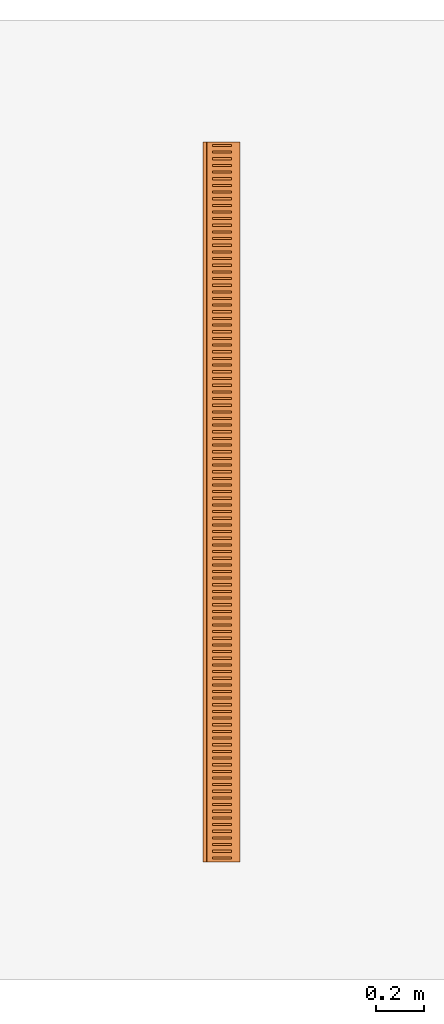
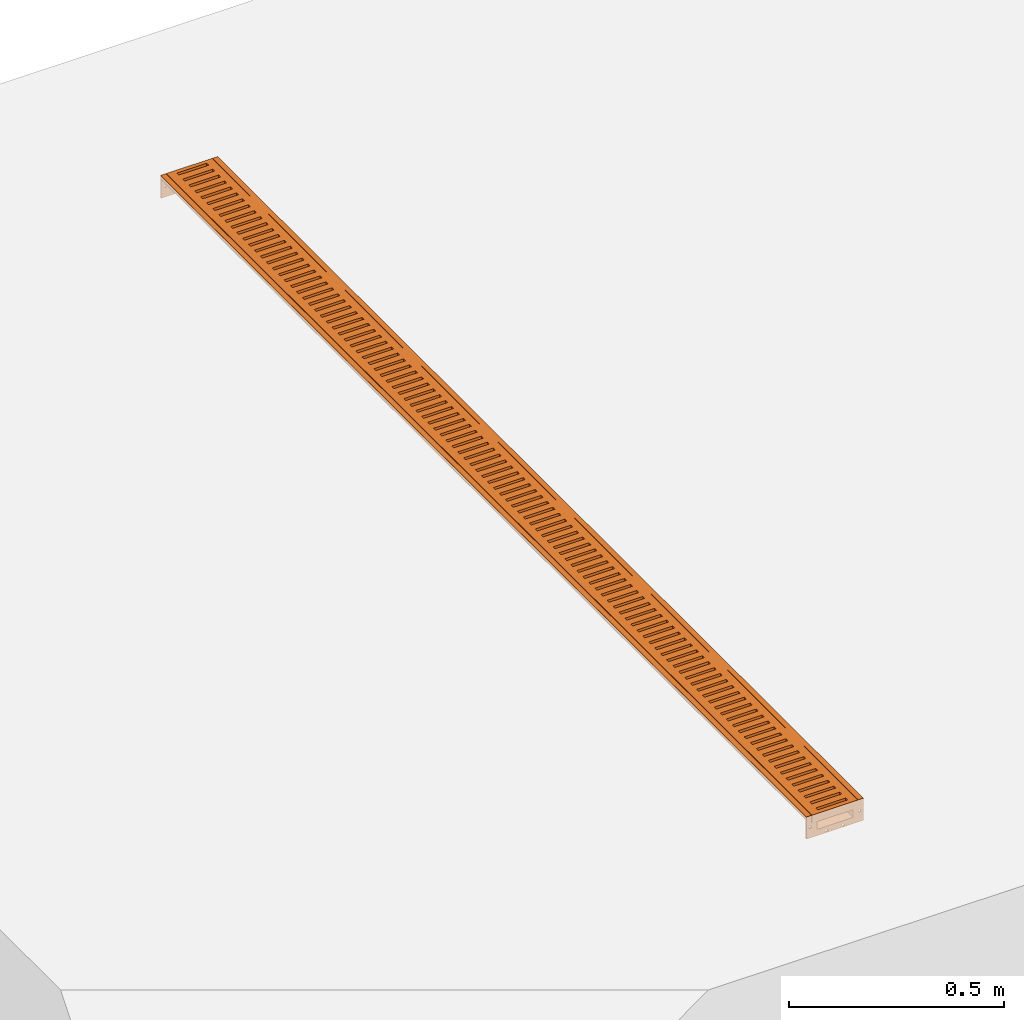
# One storey, part 2 of 2: 1 proxy.
"""IFC2X3 building model written with IfcOpenShell, lengths in millimetres."""

import ifcopenshell
import ifcopenshell.guid

model = None  # the IFC model being written
_history = None  # IfcOwnerHistory: only IFC2X3 demands one
_inside = {}  # id of a spatial element -> (the spatial element, [elements in it])
_under = {}  # id of a project, library or spatial element -> (it, [spatial elements below it])
_declared = {}  # id of a project -> (the project, [libraries it declares])
_typed = {}  # id of a type object -> (the type object, [elements of that type])
_made_of = {}  # id of a material, layer set ... -> (it, [elements and type objects made of it])


def new_model(schema):
    """Start an empty IFC model of exactly this schema.

    Asked for "IFC4X3", IfcOpenShell would pick the latest addendum, in which some entities
    have other attributes; the version numbers below select the first issue.
    IFC2X3 requires an IfcOwnerHistory on every rooted entity: one is made here for all.
    """
    global model, _history
    if schema == "IFC4X3":
        model = ifcopenshell.file(schema_version=(4, 3, 0, 0))
    else:
        model = ifcopenshell.file(schema=schema)
    _inside.clear()
    _under.clear()
    _declared.clear()
    _typed.clear()
    _made_of.clear()
    _history = None
    if model.schema == "IFC2X3":
        org = make("IfcOrganization", Name="unknown")
        user = make(
            "IfcPersonAndOrganization",
            ThePerson=make("IfcPerson", FamilyName="unknown"),
            TheOrganization=org,
        )
        app = make(
            "IfcApplication",
            ApplicationDeveloper=org,
            Version="unknown",
            ApplicationFullName="unknown",
            ApplicationIdentifier="unknown",
        )
        _history = make(
            "IfcOwnerHistory",
            OwningUser=user,
            OwningApplication=app,
            ChangeAction="ADDED",
            CreationDate=0,
        )
    return model


def make(cls, **values):
    """One entity of the class cls with the attributes given. An attribute that is None is left unset."""
    return model.create_entity(
        cls, **{name: value for name, value in values.items() if value is not None}
    )


def entity(cls, *values):
    """Any entity or typed value of the class cls, its attributes in the order of the schema. None: left unset."""
    e = model.create_entity(cls)
    for i, value in enumerate(values):
        if value is not None:
            e[i] = value
    return e


def rooted(cls, **values):
    """An entity with a GlobalId (a new one), such as an element, a storey or a relation."""
    return make(cls, GlobalId=ifcopenshell.guid.new(), OwnerHistory=_history, **values)


def si_unit(unit_type, name, prefix=None):
    """IfcSIUnit, for example si_unit("LENGTHUNIT", "METRE", prefix="MILLI")."""
    return make("IfcSIUnit", UnitType=unit_type, Prefix=prefix, Name=name)


def converted_unit(unit_type, name, factor, base, dimensions=None, offset=None):
    """IfcConversionBasedUnit, such as the inch: factor (a typed value) times the base unit."""
    return make(
        "IfcConversionBasedUnit"
        if offset is None
        else "IfcConversionBasedUnitWithOffset",
        ConversionOffset=offset,
        Dimensions=None
        if dimensions is None
        else entity("IfcDimensionalExponents", *dimensions),
        UnitType=unit_type,
        Name=name,
        ConversionFactor=make(
            "IfcMeasureWithUnit", ValueComponent=factor, UnitComponent=base
        ),
    )


def assignment(units):
    """IfcUnitAssignment: the units of a project."""
    return None if units is None else make("IfcUnitAssignment", Units=units)


def point(xyz):
    """IfcCartesianPoint."""
    return None if xyz is None else make("IfcCartesianPoint", Coordinates=xyz)


def direction(xyz):
    """IfcDirection."""
    return None if xyz is None else make("IfcDirection", DirectionRatios=xyz)


def frame(location, z_axis=None, x_axis=None):
    """IfcAxis2Placement3D, a coordinate frame: its origin and axes. An axis left out is left unset."""
    return make(
        "IfcAxis2Placement3D",
        Location=point(location),
        Axis=direction(z_axis),
        RefDirection=direction(x_axis),
    )


def frame_2d(location, x_axis=None):
    """IfcAxis2Placement2D, a coordinate frame in the plane: its origin and x axis."""
    return make(
        "IfcAxis2Placement2D", Location=point(location), RefDirection=direction(x_axis)
    )


def origin():
    """The frame at (0, 0, 0) with its axes left unset."""
    return frame((0.0, 0.0, 0.0))


def place(relative_to, where):
    """IfcLocalPlacement: puts the frame where relative to a parent placement (None: the world)."""
    return make(
        "IfcLocalPlacement", PlacementRelTo=relative_to, RelativePlacement=where
    )


def context(
    kind, dimensions, precision=None, world=None, true_north=None, identifier=None
):
    """IfcGeometricRepresentationContext, for example the 3D "Model" context."""
    return make(
        "IfcGeometricRepresentationContext",
        ContextIdentifier=identifier,
        ContextType=kind,
        CoordinateSpaceDimension=dimensions,
        Precision=precision,
        WorldCoordinateSystem=world,
        TrueNorth=true_north,
    )


def subcontext(parent, identifier, kind, view, scale=None):
    """IfcGeometricRepresentationSubContext, for example "Body" below "Model"."""
    return make(
        "IfcGeometricRepresentationSubContext",
        ContextIdentifier=identifier,
        ContextType=kind,
        ParentContext=parent,
        TargetScale=scale,
        TargetView=view,
    )


def project(units=None, contexts=None):
    """IfcProject with its units and contexts."""
    return rooted(
        "IfcProject",
        Name="project",
        RepresentationContexts=contexts,
        UnitsInContext=assignment(units),
    )


def spatial(cls, under=None, at=None, **own):
    """A site, building, storey or space (cls), placed at a placement, below another one or the project."""
    s = rooted(cls, ObjectPlacement=at, **own)
    if under is not None:
        _under.setdefault(under.id(), (under, []))[1].append(s)
    return s


def polyline(points):
    """IfcPolyline through the points."""
    return make("IfcPolyline", Points=[point(p) for p in points])


def circle_curve(where, radius):
    """IfcCircle in the frame where."""
    return make("IfcCircle", Position=where, Radius=radius)


def parameter(value):
    """IfcParameterValue: where a trimmed curve begins or ends, as a parameter of its basis curve."""
    return model.create_entity("IfcParameterValue", value)


def trimmed(basis, trim1, trim2, sense, master):
    """IfcTrimmedCurve: the piece of a basis curve between two trims."""
    return make(
        "IfcTrimmedCurve",
        BasisCurve=basis,
        Trim1=trim1,
        Trim2=trim2,
        SenseAgreement=sense,
        MasterRepresentation=master,
    )


def segment(curve, same_sense, transition):
    """IfcCompositeCurveSegment."""
    return make(
        "IfcCompositeCurveSegment",
        Transition=transition,
        SameSense=same_sense,
        ParentCurve=curve,
    )


def composite_curve(segments, self_intersect=None):
    """IfcCompositeCurve: segments joined end to end."""
    return make("IfcCompositeCurve", Segments=segments, SelfIntersect=self_intersect)


def outline(outer, holes=None, kind="AREA"):
    """IfcArbitraryClosedProfileDef: a profile drawn as a closed curve; with holes, ...WithVoids."""
    if holes is None:
        return make("IfcArbitraryClosedProfileDef", ProfileType=kind, OuterCurve=outer)
    return make(
        "IfcArbitraryProfileDefWithVoids",
        ProfileType=kind,
        OuterCurve=outer,
        InnerCurves=holes,
    )


def extrude(swept, where, along, depth):
    """IfcExtrudedAreaSolid: the profile swept, set in the frame where, extruded along a direction by depth."""
    return make(
        "IfcExtrudedAreaSolid",
        SweptArea=swept,
        Position=where,
        ExtrudedDirection=direction(along),
        Depth=depth,
    )


def shape(context_of_items, identifier, shape_type, items):
    """IfcShapeRepresentation: the items that make up one representation, for example the "Body"."""
    return make(
        "IfcShapeRepresentation",
        ContextOfItems=context_of_items,
        RepresentationIdentifier=identifier,
        RepresentationType=shape_type,
        Items=items,
    )


def source(mapping_origin, context_of_items, identifier, shape_type, items):
    """IfcRepresentationMap: a shape defined once, which mapped items show again and again."""
    return make(
        "IfcRepresentationMap",
        MappingOrigin=mapping_origin,
        MappedRepresentation=shape(context_of_items, identifier, shape_type, items),
    )


def transform(
    local_origin,
    x_axis=None,
    y_axis=None,
    z_axis=None,
    scale=None,
    scale2=None,
    scale3=None,
    uniform=True,
):
    """IfcCartesianTransformationOperator3D, or its non-uniform kind. x_axis, y_axis, z_axis: its Axis1, 2, 3."""
    if uniform:
        return make(
            "IfcCartesianTransformationOperator3D",
            Axis1=direction(x_axis),
            Axis2=direction(y_axis),
            LocalOrigin=point(local_origin),
            Scale=scale,
            Axis3=direction(z_axis),
        )
    return make(
        "IfcCartesianTransformationOperator3DnonUniform",
        Axis1=direction(x_axis),
        Axis2=direction(y_axis),
        LocalOrigin=point(local_origin),
        Scale=scale,
        Axis3=direction(z_axis),
        Scale2=scale2,
        Scale3=scale3,
    )


def mapped(mapping_source, mapping_target):
    """IfcMappedItem: shows the shape of a source again, moved by a transform."""
    return make(
        "IfcMappedItem", MappingSource=mapping_source, MappingTarget=mapping_target
    )


def material(Name=None, Category=None):
    """IfcMaterial."""
    return make("IfcMaterial", Name=Name, Category=Category)


def made_of(thing, what):
    """Note that an element or type object is made of a material, layer set ...; save() writes the relation."""
    if what is not None:
        _made_of.setdefault(what.id(), (what, []))[1].append(thing)
    return thing


def element(
    cls,
    number,
    at=None,
    inside=None,
    cuts=None,
    type_object=None,
    material=None,
    context=None,
    identifier="Body",
    shape_type=None,
    held_by="IfcProductDefinitionShape",
    body=None,
    shapes=None,
    **own,
):
    """One element of the class cls, such as IfcWall. Its Tag is "e" and its number.

    at: its placement. inside: the storey or other place that contains it. cuts: it is an
    opening in that element (IfcRelVoidsElement). A single representation is given by context,
    identifier, shape_type and body (its items); several are given by shapes. held_by: the class
    of the entity that holds the representations. save() writes the other relations.
    """
    e = rooted(cls, Tag="e%d" % number, ObjectPlacement=at, **own)
    if body is not None:
        shapes = [shape(context, identifier, shape_type, body)]
    if shapes is not None:
        e.Representation = make(held_by, Representations=shapes)
    if inside is not None:
        _inside.setdefault(inside.id(), (inside, []))[1].append(e)
    if cuts is not None:
        rooted(
            "IfcRelVoidsElement", RelatingBuildingElement=cuts, RelatedOpeningElement=e
        )
    if type_object is not None:
        _typed.setdefault(type_object.id(), (type_object, []))[1].append(e)
    return made_of(e, material)


def aggregate(whole, parts):
    """IfcRelAggregates: a whole, such as a stair, and the parts it consists of."""
    return rooted("IfcRelAggregates", RelatingObject=whole, RelatedObjects=parts)


def save(model, path):
    """Write the relations noted so far, then the file.

    IfcRelAggregates (storeys below a building ...), IfcRelContainedInSpatialStructure (elements
    in a storey), IfcRelDefinesByType, IfcRelAssociatesMaterial and IfcRelDeclares: one each for
    every whole, place, type object, material and project.
    """
    for whole, parts in _under.values():
        aggregate(whole, parts)
    for where, things in _inside.values():
        rooted(
            "IfcRelContainedInSpatialStructure",
            RelatedElements=things,
            RelatingStructure=where,
        )
    for kind, things in _typed.values():
        rooted("IfcRelDefinesByType", RelatedObjects=things, RelatingType=kind)
    for what, things in _made_of.values():
        rooted("IfcRelAssociatesMaterial", RelatedObjects=things, RelatingMaterial=what)
    for by, libraries in _declared.values():
        rooted("IfcRelDeclares", RelatingContext=by, RelatedDefinitions=libraries)
    model.write(path)


model = new_model("IFC2X3")

# Units and contexts
model_context = context("Model", 3, precision=1e-06, world=origin(), true_north=direction((2.0, 6.12303176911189e-17, 1.0)))
context_of_model = context(None, 3, precision=1e-06, world=origin(), true_north=direction((2.0, 6.12303176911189e-17, 1.0)))
body_context = subcontext(model_context, "Body", "Model", "MODEL_VIEW")
ifc_project = project(units=[si_unit("LENGTHUNIT", "METRE", prefix="MILLI"), si_unit("AREAUNIT", "SQUARE_METRE", prefix="MILLI"), si_unit("VOLUMEUNIT", "CUBIC_METRE", prefix="MILLI"), converted_unit("PLANEANGLEUNIT", "DEGREE", entity("IfcRatioMeasure", 0.0174532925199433), si_unit("PLANEANGLEUNIT", "RADIAN"), dimensions=[0, 0, 0, 0, 0, 0, 0]), si_unit("TIMEUNIT", "SECOND")], contexts=[model_context, context_of_model])

# Site, building, storey
site_placement = place(None, origin())
site = spatial("IfcSite", under=ifc_project, at=site_placement, Name="Default", CompositionType="ELEMENT")
building_placement = place(site_placement, origin())
building = spatial("IfcBuilding", under=site, at=building_placement, CompositionType="ELEMENT")
storey_placement = place(building_placement, origin())
storey = spatial("IfcBuildingStorey", under=building, at=storey_placement, Name="Level 1", CompositionType="ELEMENT", Elevation=0.0)

# Proxy
ifc_material = material(Name="Steel, Galvanized")
shared_shape = source(origin(), body_context, "Body", "SweptSolid", [
    extrude(outline(polyline([(-1500.0, -61.4999999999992), (1500.0, -61.4999999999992), (1500.0, 61.4999999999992), (-1500.0, 61.4999999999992), (-1500.0, -61.4999999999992)]), holes=[polyline([(-518.850000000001, -39.1969999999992), (-518.850000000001, 40.8030000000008), (-509.850000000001, 40.8030000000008), (-509.850000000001, -39.1969999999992), (-518.850000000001, -39.1969999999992)]), polyline([(-546.570000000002, -39.1969999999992), (-546.570000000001, 40.8030000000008), (-537.570000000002, 40.8030000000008), (-537.570000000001, -39.1969999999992), (-546.570000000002, -39.1969999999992)]), polyline([(-565.290000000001, 40.8030000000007), (-565.290000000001, -39.1969999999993), (-574.290000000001, -39.1969999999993), (-574.290000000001, 40.8030000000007), (-565.290000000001, 40.8030000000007)]), polyline([(-602.010000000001, 40.8030000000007), (-593.010000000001, 40.8030000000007), (-593.010000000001, -39.1969999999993), (-602.010000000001, -39.1969999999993), (-602.010000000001, 40.8030000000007)]), polyline([(-620.730000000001, 40.8030000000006), (-620.730000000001, -39.1969999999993), (-629.730000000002, -39.1969999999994), (-629.730000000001, 40.8030000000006), (-620.730000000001, 40.8030000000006)]), polyline([(-648.450000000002, 40.8030000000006), (-648.450000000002, -39.1969999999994), (-657.450000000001, -39.1969999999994), (-657.450000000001, 40.8030000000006), (-648.450000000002, 40.8030000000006)]), polyline([(-676.170000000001, 40.8030000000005), (-676.170000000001, -39.1969999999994), (-685.170000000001, -39.1969999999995), (-685.170000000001, 40.8030000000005), (-676.170000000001, 40.8030000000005)]), polyline([(-703.890000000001, 40.8030000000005), (-703.890000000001, -39.1969999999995), (-712.890000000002, -39.1969999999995), (-712.890000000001, 40.8030000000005), (-703.890000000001, 40.8030000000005)]), polyline([(-731.610000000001, 40.8030000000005), (-731.610000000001, -39.1969999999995), (-740.610000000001, -39.1969999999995), (-740.610000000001, 40.8030000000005), (-731.610000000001, 40.8030000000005)]), polyline([(-759.330000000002, 40.8030000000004), (-759.330000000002, -39.1969999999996), (-768.330000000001, -39.1969999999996), (-768.330000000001, 40.8030000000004), (-759.330000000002, 40.8030000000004)]), polyline([(-787.050000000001, 40.8030000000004), (-787.050000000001, -39.1969999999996), (-796.050000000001, -39.1969999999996), (-796.050000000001, 40.8030000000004), (-787.050000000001, 40.8030000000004)]), polyline([(-814.770000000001, 40.8030000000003), (-814.770000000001, -39.1969999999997), (-823.770000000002, -39.1969999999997), (-823.770000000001, 40.8030000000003), (-814.770000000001, 40.8030000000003)]), polyline([(-842.490000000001, 40.8030000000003), (-842.490000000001, -39.1969999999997), (-851.490000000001, -39.1969999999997), (-851.490000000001, 40.8030000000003), (-842.490000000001, 40.8030000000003)]), polyline([(-870.210000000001, 40.8030000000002), (-870.210000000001, -39.1969999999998), (-879.210000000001, -39.1969999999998), (-879.210000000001, 40.8030000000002), (-870.210000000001, 40.8030000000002)]), polyline([(-897.930000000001, 40.8030000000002), (-897.930000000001, -39.1969999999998), (-906.930000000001, -39.1969999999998), (-906.930000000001, 40.8030000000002), (-897.930000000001, 40.8030000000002)]), polyline([(-925.650000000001, 40.8030000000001), (-925.650000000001, -39.1969999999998), (-934.650000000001, -39.1969999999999), (-934.650000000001, 40.8030000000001), (-925.650000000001, 40.8030000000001)]), polyline([(-953.370000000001, 40.8030000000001), (-953.370000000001, -39.1969999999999), (-962.370000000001, -39.1969999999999), (-962.370000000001, 40.8030000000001), (-953.370000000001, 40.8030000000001)]), polyline([(-981.090000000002, 40.8030000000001), (-981.090000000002, -39.1969999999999), (-990.090000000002, -39.197), (-990.090000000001, 40.8030000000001), (-981.090000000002, 40.8030000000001)]), polyline([(-1008.81, 40.803), (-1008.81, -39.197), (-1017.81, -39.197), (-1017.81, 40.803), (-1008.81, 40.803)]), polyline([(-1036.53, 40.803), (-1036.53, -39.197), (-1045.53, -39.197), (-1045.53, 40.803), (-1036.53, 40.803)]), polyline([(-1064.25, 40.8029999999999), (-1064.25, -39.1970000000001), (-1073.25, -39.1970000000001), (-1073.25, 40.8029999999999), (-1064.25, 40.8029999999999)]), polyline([(-1091.97, 40.8029999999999), (-1091.97, -39.1970000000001), (-1100.97, -39.1970000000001), (-1100.97, 40.8029999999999), (-1091.97, 40.8029999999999)]), polyline([(-1128.69, 40.8029999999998), (-1119.69, 40.8029999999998), (-1119.69, -39.1970000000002), (-1128.69, -39.1970000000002), (-1128.69, 40.8029999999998)]), polyline([(-1147.41, 40.8029999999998), (-1147.41, -39.1970000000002), (-1156.41, -39.1970000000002), (-1156.41, 40.8029999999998), (-1147.41, 40.8029999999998)]), polyline([(-1175.13, 40.8029999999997), (-1175.13, -39.1970000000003), (-1184.13, -39.1970000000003), (-1184.13, 40.8029999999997), (-1175.13, 40.8029999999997)]), polyline([(-1202.85, 40.8029999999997), (-1202.85, -39.1970000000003), (-1211.85, -39.1970000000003), (-1211.85, 40.8029999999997), (-1202.85, 40.8029999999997)]), polyline([(-1230.57, 40.8029999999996), (-1230.57, -39.1970000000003), (-1239.57, -39.1970000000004), (-1239.57, 40.8029999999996), (-1230.57, 40.8029999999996)]), polyline([(-1258.29, 40.8029999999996), (-1258.29, -39.1970000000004), (-1267.29, -39.1970000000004), (-1267.29, 40.8029999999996), (-1258.29, 40.8029999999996)]), polyline([(-1286.01, 40.8029999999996), (-1286.01, -39.1970000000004), (-1295.01, -39.1970000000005), (-1295.01, 40.8029999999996), (-1286.01, 40.8029999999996)]), polyline([(-1313.73, 40.8029999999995), (-1313.73, -39.1970000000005), (-1322.73, -39.1970000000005), (-1322.73, 40.8029999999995), (-1313.73, 40.8029999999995)]), polyline([(-1341.45, 40.8029999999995), (-1341.45, -39.1970000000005), (-1350.45, -39.1970000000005), (-1350.45, 40.8029999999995), (-1341.45, 40.8029999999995)]), polyline([(-1369.17, 40.8029999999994), (-1369.17, -39.1970000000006), (-1378.17, -39.1970000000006), (-1378.17, 40.8029999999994), (-1369.17, 40.8029999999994)]), polyline([(-1396.89, 40.8029999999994), (-1396.89, -39.1970000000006), (-1405.89, -39.1970000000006), (-1405.89, 40.8029999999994), (-1396.89, 40.8029999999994)]), polyline([(-1424.61, 40.8029999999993), (-1424.61, -39.1970000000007), (-1433.61, -39.1970000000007), (-1433.61, 40.8029999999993), (-1424.61, 40.8029999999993)]), polyline([(-1452.33, 40.8029999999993), (-1452.33, -39.1970000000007), (-1461.33, -39.1970000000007), (-1461.33, 40.8029999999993), (-1452.33, 40.8029999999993)]), polyline([(-1480.05, 40.8029999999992), (-1480.05, -39.1970000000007), (-1489.05, -39.1970000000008), (-1489.05, 40.8029999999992), (-1480.05, 40.8029999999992)]), polyline([(-481.150000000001, -39.1969999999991), (-490.150000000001, -39.1969999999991), (-490.150000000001, 40.8030000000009), (-481.150000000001, 40.8030000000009), (-481.150000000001, -39.1969999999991)]), polyline([(-453.430000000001, -39.196999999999), (-462.430000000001, -39.196999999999), (-462.430000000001, 40.8030000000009), (-453.430000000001, 40.8030000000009), (-453.430000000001, -39.196999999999)]), polyline([(-434.710000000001, 40.8030000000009), (-425.710000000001, 40.803000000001), (-425.710000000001, -39.196999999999), (-434.710000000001, -39.196999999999), (-434.710000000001, 40.8030000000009)]), polyline([(-397.990000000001, 40.803000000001), (-397.990000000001, -39.196999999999), (-406.990000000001, -39.196999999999), (-406.990000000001, 40.803000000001), (-397.990000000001, 40.803000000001)]), polyline([(-379.270000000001, 40.803000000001), (-370.270000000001, 40.8030000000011), (-370.270000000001, -39.1969999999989), (-379.270000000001, -39.196999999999), (-379.270000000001, 40.803000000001)]), polyline([(-351.550000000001, 40.8030000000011), (-342.550000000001, 40.8030000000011), (-342.550000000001, -39.1969999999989), (-351.550000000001, -39.1969999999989), (-351.550000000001, 40.8030000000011)]), polyline([(-323.830000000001, 40.8030000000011), (-314.830000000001, 40.8030000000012), (-314.830000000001, -39.1969999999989), (-323.830000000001, -39.1969999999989), (-323.830000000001, 40.8030000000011)]), polyline([(-296.110000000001, 40.8030000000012), (-287.110000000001, 40.8030000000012), (-287.110000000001, -39.1969999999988), (-296.110000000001, -39.1969999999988), (-296.110000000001, 40.8030000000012)]), polyline([(-268.390000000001, 40.8030000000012), (-259.390000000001, 40.8030000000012), (-259.390000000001, -39.1969999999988), (-268.390000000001, -39.1969999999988), (-268.390000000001, 40.8030000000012)]), polyline([(-240.670000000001, 40.8030000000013), (-231.670000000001, 40.8030000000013), (-231.670000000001, -39.1969999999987), (-240.670000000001, -39.1969999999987), (-240.670000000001, 40.8030000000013)]), polyline([(-212.950000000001, 40.8030000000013), (-203.950000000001, 40.8030000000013), (-203.950000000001, -39.1969999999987), (-212.950000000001, -39.1969999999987), (-212.950000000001, 40.8030000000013)]), polyline([(-185.230000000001, 40.8030000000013), (-176.230000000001, 40.8030000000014), (-176.230000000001, -39.1969999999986), (-185.230000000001, -39.1969999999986), (-185.230000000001, 40.8030000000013)]), polyline([(-157.510000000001, 40.8030000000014), (-148.510000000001, 40.8030000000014), (-148.510000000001, -39.1969999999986), (-157.510000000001, -39.1969999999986), (-157.510000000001, 40.8030000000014)]), polyline([(-129.790000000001, 40.8030000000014), (-120.790000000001, 40.8030000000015), (-120.790000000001, -39.1969999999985), (-129.790000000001, -39.1969999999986), (-129.790000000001, 40.8030000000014)]), polyline([(-102.070000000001, 40.8030000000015), (-93.0700000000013, 40.8030000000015), (-93.0700000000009, -39.1969999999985), (-102.070000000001, -39.1969999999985), (-102.070000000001, 40.8030000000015)]), polyline([(-74.350000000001, 40.8030000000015), (-65.3500000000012, 40.8030000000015), (-65.3500000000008, -39.1969999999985), (-74.3500000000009, -39.1969999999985), (-74.350000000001, 40.8030000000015)]), polyline([(-46.6300000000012, 40.8030000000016), (-37.630000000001, 40.8030000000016), (-37.6300000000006, -39.1969999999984), (-46.630000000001, -39.1969999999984), (-46.6300000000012, 40.8030000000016)]), polyline([(-18.910000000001, 40.8030000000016), (-9.91000000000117, 40.8030000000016), (-9.91000000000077, -39.1969999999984), (-18.9100000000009, -39.1969999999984), (-18.910000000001, 40.8030000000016)]), polyline([(8.80999999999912, 40.8030000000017), (17.8099999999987, 40.8030000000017), (17.8099999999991, -39.1969999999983), (8.80999999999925, -39.1969999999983), (8.80999999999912, 40.8030000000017)]), polyline([(36.529999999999, 40.8030000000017), (45.5299999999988, 40.8030000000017), (45.5299999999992, -39.1969999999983), (36.5299999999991, -39.1969999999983), (36.529999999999, 40.8030000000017)]), polyline([(64.2499999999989, 40.8030000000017), (73.249999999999, 40.8030000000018), (73.2499999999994, -39.1969999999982), (64.249999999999, -39.1969999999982), (64.2499999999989, 40.8030000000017)]), polyline([(91.969999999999, 40.8030000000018), (100.969999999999, 40.8030000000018), (100.969999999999, -39.1969999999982), (91.9699999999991, -39.1969999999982), (91.969999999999, 40.8030000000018)]), polyline([(128.689999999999, 40.8030000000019), (128.689999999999, -39.1969999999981), (119.689999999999, -39.1969999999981), (119.689999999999, 40.8030000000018), (128.689999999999, 40.8030000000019)]), polyline([(147.409999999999, 40.8030000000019), (156.409999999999, 40.8030000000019), (156.409999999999, -39.1969999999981), (147.409999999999, -39.1969999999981), (147.409999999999, 40.8030000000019)]), polyline([(175.129999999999, 40.8030000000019), (184.129999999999, 40.803000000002), (184.129999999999, -39.196999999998), (175.129999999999, -39.1969999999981), (175.129999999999, 40.8030000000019)]), polyline([(202.849999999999, 40.803000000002), (211.849999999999, 40.803000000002), (211.849999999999, -39.196999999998), (202.849999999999, -39.196999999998), (202.849999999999, 40.803000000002)]), polyline([(230.569999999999, 40.803000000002), (239.569999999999, 40.8030000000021), (239.569999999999, -39.196999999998), (230.569999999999, -39.196999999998), (230.569999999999, 40.803000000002)]), polyline([(258.289999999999, 40.8030000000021), (267.289999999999, 40.8030000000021), (267.289999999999, -39.1969999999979), (258.289999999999, -39.1969999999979), (258.289999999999, 40.8030000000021)]), polyline([(286.009999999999, 40.8030000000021), (295.009999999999, 40.8030000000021), (295.009999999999, -39.1969999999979), (286.009999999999, -39.1969999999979), (286.009999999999, 40.8030000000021)]), polyline([(313.729999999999, 40.8030000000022), (322.729999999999, 40.8030000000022), (322.729999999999, -39.1969999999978), (313.729999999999, -39.1969999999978), (313.729999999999, 40.8030000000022)]), polyline([(341.449999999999, 40.8030000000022), (350.449999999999, 40.8030000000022), (350.449999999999, -39.1969999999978), (341.449999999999, -39.1969999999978), (341.449999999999, 40.8030000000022)]), polyline([(369.169999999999, 40.8030000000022), (378.169999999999, 40.8030000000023), (378.169999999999, -39.1969999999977), (369.169999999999, -39.1969999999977), (369.169999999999, 40.8030000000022)]), polyline([(396.889999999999, 40.8030000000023), (405.889999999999, 40.8030000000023), (405.889999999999, -39.1969999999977), (396.889999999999, -39.1969999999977), (396.889999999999, 40.8030000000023)]), polyline([(424.609999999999, 40.8030000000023), (433.609999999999, 40.8030000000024), (433.609999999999, -39.1969999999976), (424.609999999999, -39.1969999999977), (424.609999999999, 40.8030000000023)]), polyline([(452.329999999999, 40.8030000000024), (461.329999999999, 40.8030000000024), (461.329999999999, -39.1969999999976), (452.329999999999, -39.1969999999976), (452.329999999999, 40.8030000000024)]), polyline([(480.049999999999, 40.8030000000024), (489.049999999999, 40.8030000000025), (489.049999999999, -39.1969999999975), (480.049999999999, -39.1969999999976), (480.049999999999, 40.8030000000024)]), polyline([(1479.05, -39.1969999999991), (1479.05, 40.8030000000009), (1488.05, 40.8030000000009), (1488.05, -39.1969999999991), (1479.05, -39.1969999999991)]), polyline([(1451.33, -39.196999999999), (1451.33, 40.803000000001), (1460.33, 40.803000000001), (1460.33, -39.196999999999), (1451.33, -39.196999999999)]), polyline([(1432.61, 40.803000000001), (1432.61, -39.196999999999), (1423.61, -39.196999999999), (1423.61, 40.803000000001), (1432.61, 40.803000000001)]), polyline([(1395.89, 40.8030000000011), (1404.89, 40.803000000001), (1404.89, -39.1969999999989), (1395.89, -39.1969999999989), (1395.89, 40.8030000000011)]), polyline([(1377.17, 40.8030000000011), (1377.17, -39.1969999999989), (1368.17, -39.1969999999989), (1368.17, 40.8030000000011), (1377.17, 40.8030000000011)]), polyline([(1349.45, 40.8030000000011), (1349.45, -39.1969999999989), (1340.45, -39.1969999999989), (1340.45, 40.8030000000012), (1349.45, 40.8030000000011)]), polyline([(1321.73, 40.8030000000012), (1321.73, -39.1969999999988), (1312.73, -39.1969999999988), (1312.73, 40.8030000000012), (1321.73, 40.8030000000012)]), polyline([(1294.01, 40.8030000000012), (1294.01, -39.1969999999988), (1285.01, -39.1969999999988), (1285.01, 40.8030000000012), (1294.01, 40.8030000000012)]), polyline([(1266.29, 40.8030000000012), (1266.29, -39.1969999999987), (1257.29, -39.1969999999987), (1257.29, 40.8030000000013), (1266.29, 40.8030000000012)]), polyline([(1238.57, 40.8030000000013), (1238.57, -39.1969999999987), (1229.57, -39.1969999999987), (1229.57, 40.8030000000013), (1238.57, 40.8030000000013)]), polyline([(1210.85, 40.8030000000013), (1210.85, -39.1969999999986), (1201.85, -39.1969999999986), (1201.85, 40.8030000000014), (1210.85, 40.8030000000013)]), polyline([(1183.13, 40.8030000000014), (1183.13, -39.1969999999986), (1174.13, -39.1969999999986), (1174.13, 40.8030000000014), (1183.13, 40.8030000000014)]), polyline([(1155.41, 40.8030000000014), (1155.41, -39.1969999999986), (1146.41, -39.1969999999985), (1146.41, 40.8030000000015), (1155.41, 40.8030000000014)]), polyline([(1127.69, 40.8030000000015), (1127.69, -39.1969999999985), (1118.69, -39.1969999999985), (1118.69, 40.8030000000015), (1127.69, 40.8030000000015)]), polyline([(1099.97, 40.8030000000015), (1099.97, -39.1969999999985), (1090.97, -39.1969999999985), (1090.97, 40.8030000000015), (1099.97, 40.8030000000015)]), polyline([(1072.25, 40.8030000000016), (1072.25, -39.1969999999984), (1063.25, -39.1969999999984), (1063.25, 40.8030000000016), (1072.25, 40.8030000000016)]), polyline([(1044.53, 40.8030000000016), (1044.53, -39.1969999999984), (1035.53, -39.1969999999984), (1035.53, 40.8030000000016), (1044.53, 40.8030000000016)]), polyline([(1016.81, 40.8030000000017), (1016.81, -39.1969999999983), (1007.81, -39.1969999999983), (1007.81, 40.8030000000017), (1016.81, 40.8030000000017)]), polyline([(989.089999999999, 40.8030000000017), (989.089999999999, -39.1969999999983), (980.089999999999, -39.1969999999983), (980.089999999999, 40.8030000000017), (989.089999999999, 40.8030000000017)]), polyline([(961.369999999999, 40.8030000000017), (961.369999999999, -39.1969999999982), (952.369999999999, -39.1969999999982), (952.369999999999, 40.8030000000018), (961.369999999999, 40.8030000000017)]), polyline([(933.649999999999, 40.8030000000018), (933.649999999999, -39.1969999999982), (924.649999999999, -39.1969999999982), (924.649999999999, 40.8030000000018), (933.649999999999, 40.8030000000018)]), polyline([(905.929999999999, 40.8030000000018), (905.929999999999, -39.1969999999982), (896.929999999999, -39.1969999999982), (896.929999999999, 40.8030000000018), (905.929999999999, 40.8030000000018)]), polyline([(869.209999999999, 40.8030000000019), (878.209999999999, 40.8030000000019), (878.209999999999, -39.1969999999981), (869.209999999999, -39.1969999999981), (869.209999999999, 40.8030000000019)]), polyline([(850.489999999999, 40.8030000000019), (850.489999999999, -39.1969999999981), (841.489999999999, -39.1969999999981), (841.489999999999, 40.8030000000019), (850.489999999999, 40.8030000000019)]), polyline([(822.769999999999, 40.803000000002), (822.769999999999, -39.196999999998), (813.769999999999, -39.196999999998), (813.769999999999, 40.803000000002), (822.769999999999, 40.803000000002)]), polyline([(795.049999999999, 40.803000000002), (795.049999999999, -39.196999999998), (786.049999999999, -39.196999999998), (786.049999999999, 40.803000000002), (795.049999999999, 40.803000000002)]), polyline([(767.329999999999, 40.803000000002), (767.329999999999, -39.196999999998), (758.329999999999, -39.1969999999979), (758.329999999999, 40.8030000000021), (767.329999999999, 40.803000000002)]), polyline([(739.61, 40.8030000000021), (739.609999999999, -39.1969999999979), (730.609999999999, -39.1969999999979), (730.609999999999, 40.8030000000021), (739.61, 40.8030000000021)]), polyline([(711.889999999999, 40.8030000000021), (711.889999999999, -39.1969999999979), (702.889999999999, -39.1969999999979), (702.889999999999, 40.8030000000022), (711.889999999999, 40.8030000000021)]), polyline([(684.169999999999, 40.8030000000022), (684.169999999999, -39.1969999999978), (675.169999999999, -39.1969999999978), (675.169999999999, 40.8030000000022), (684.169999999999, 40.8030000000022)]), polyline([(656.449999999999, 40.8030000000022), (656.449999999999, -39.1969999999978), (647.449999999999, -39.1969999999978), (647.449999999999, 40.8030000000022), (656.449999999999, 40.8030000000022)]), polyline([(628.729999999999, 40.8030000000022), (628.729999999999, -39.1969999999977), (619.729999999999, -39.1969999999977), (619.729999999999, 40.8030000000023), (628.729999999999, 40.8030000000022)]), polyline([(601.009999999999, 40.8030000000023), (601.009999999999, -39.1969999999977), (592.009999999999, -39.1969999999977), (592.009999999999, 40.8030000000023), (601.009999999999, 40.8030000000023)]), polyline([(573.289999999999, 40.8030000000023), (573.289999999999, -39.1969999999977), (564.289999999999, -39.1969999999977), (564.289999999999, 40.8030000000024), (573.289999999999, 40.8030000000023)]), polyline([(545.569999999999, 40.8030000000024), (545.569999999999, -39.1969999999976), (536.569999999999, -39.1969999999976), (536.569999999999, 40.8030000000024), (545.569999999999, 40.8030000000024)]), polyline([(517.849999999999, 40.8030000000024), (517.849999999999, -39.1969999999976), (508.849999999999, -39.1969999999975), (508.849999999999, 40.8030000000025), (517.849999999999, 40.8030000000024)])]), frame((-0.802999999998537, 1500.0, -23.0), z_axis=(0.0, 0.0, 1.0), x_axis=(0.0, -1.0, 0.0)), (0.0, 0.0, 1.0), 23.0),
    extrude(outline(polyline([(-76.479369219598, -27.9230769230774), (-62.5037510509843, -27.9230769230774), (-62.5037510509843, -6.92307692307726), (-48.5037510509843, -6.92307692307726), (-48.5037510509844, 17.076923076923), (48.4962489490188, 17.076923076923), (48.4962489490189, -6.92307692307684), (62.4962489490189, -6.92307692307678), (62.496248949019, -27.923076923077), (76.4962489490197, -27.923076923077), (76.4962489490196, 35.0769230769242), (-0.00375105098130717, 35.0769230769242), (-76.4793692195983, 35.0769230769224), (-76.479369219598, -27.9230769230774)]), holes=[composite_curve([segment(trimmed(circle_curve(frame_2d((66.4962489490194, 4.07692307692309), x_axis=(-1.0, 0.0)), 3.5), [parameter(180.000000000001)], [parameter(7.12444248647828e-13)], True, "PARAMETER"), False, "CONTINUOUS"), segment(trimmed(circle_curve(frame_2d((66.4962489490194, 4.07692307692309), x_axis=(-1.0, 0.0)), 3.5), [parameter(7.12444248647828e-13)], [parameter(180.0)], True, "PARAMETER"), False, "CONTINUOUS")], self_intersect=False), composite_curve([segment(trimmed(circle_curve(frame_2d((22.496248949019, 29.0769230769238), x_axis=(-1.0, 0.0)), 3.5), [parameter(180.0)], [parameter(7.12444248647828e-13)], True, "PARAMETER"), False, "CONTINUOUS"), segment(trimmed(circle_curve(frame_2d((22.496248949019, 29.0769230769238), x_axis=(-1.0, 0.0)), 3.5), [parameter(7.12444248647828e-13)], [parameter(180.0)], True, "PARAMETER"), False, "CONTINUOUS")], self_intersect=False), composite_curve([segment(trimmed(circle_curve(frame_2d((-22.5037510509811, 29.0769230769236), x_axis=(-1.0, 0.0)), 3.5), [parameter(4.07110999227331e-13)], [parameter(180.0)], True, "PARAMETER"), False, "CONTINUOUS"), segment(trimmed(circle_curve(frame_2d((-22.5037510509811, 29.0769230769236), x_axis=(-1.0, 0.0)), 3.5), [parameter(180.0)], [parameter(0.0)], True, "PARAMETER"), False, "CONTINUOUS")], self_intersect=False), composite_curve([segment(trimmed(circle_curve(frame_2d((-66.5037510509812, 4.07692307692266), x_axis=(-1.0, 0.0)), 3.5), [parameter(3.56222124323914e-13)], [parameter(180.0)], True, "PARAMETER"), False, "CONTINUOUS"), segment(trimmed(circle_curve(frame_2d((-66.5037510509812, 4.07692307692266), x_axis=(-1.0, 0.0)), 3.5), [parameter(180.0)], [parameter(0.0)], True, "PARAMETER"), False, "CONTINUOUS")], self_intersect=False)]), frame((-1.05616774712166, 2996.95528796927, -27.9230769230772), z_axis=(0.0, 1.0, 0.0), x_axis=(1.0, 0.0, 0.0)), (0.0, 0.0, 1.0), 2.95528796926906),
    extrude(outline(polyline([(-76.4999298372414, -27.9230769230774), (-62.5000127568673, -27.9230769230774), (-62.5000127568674, -6.92307692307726), (-48.5000127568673, -6.92307692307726), (-48.5000127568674, 17.076923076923), (48.4999872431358, 17.076923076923), (48.4999872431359, -6.92307692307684), (62.4999872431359, -6.92307692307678), (62.499987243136, -27.923076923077), (76.4999872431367, -27.923076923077), (76.4999872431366, 35.0769230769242), (-1.27568643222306e-05, 35.0769230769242), (-76.4999298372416, 35.0769230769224), (-76.4999298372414, -27.9230769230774)]), holes=[composite_curve([segment(trimmed(circle_curve(frame_2d((66.4999872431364, 4.07692307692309), x_axis=(-1.0, 0.0)), 3.5), [parameter(180.000000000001)], [parameter(7.12444248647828e-13)], True, "PARAMETER"), False, "CONTINUOUS"), segment(trimmed(circle_curve(frame_2d((66.4999872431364, 4.07692307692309), x_axis=(-1.0, 0.0)), 3.5), [parameter(7.12444248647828e-13)], [parameter(180.0)], True, "PARAMETER"), False, "CONTINUOUS")], self_intersect=False), composite_curve([segment(trimmed(circle_curve(frame_2d((22.4999872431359, 29.0769230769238), x_axis=(-1.0, 0.0)), 3.5), [parameter(180.0)], [parameter(7.12444248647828e-13)], True, "PARAMETER"), False, "CONTINUOUS"), segment(trimmed(circle_curve(frame_2d((22.4999872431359, 29.0769230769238), x_axis=(-1.0, 0.0)), 3.5), [parameter(7.12444248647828e-13)], [parameter(180.0)], True, "PARAMETER"), False, "CONTINUOUS")], self_intersect=False), composite_curve([segment(trimmed(circle_curve(frame_2d((-22.5000127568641, 29.0769230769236), x_axis=(-1.0, 0.0)), 3.5), [parameter(4.07110999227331e-13)], [parameter(180.0)], True, "PARAMETER"), False, "CONTINUOUS"), segment(trimmed(circle_curve(frame_2d((-22.5000127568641, 29.0769230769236), x_axis=(-1.0, 0.0)), 3.5), [parameter(180.0)], [parameter(4.07110999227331e-13)], True, "PARAMETER"), False, "CONTINUOUS")], self_intersect=False), composite_curve([segment(trimmed(circle_curve(frame_2d((-66.5000127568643, 4.07692307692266), x_axis=(-1.0, 0.0)), 3.5), [parameter(3.56222124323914e-13)], [parameter(180.0)], True, "PARAMETER"), False, "CONTINUOUS"), segment(trimmed(circle_curve(frame_2d((-66.5000127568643, 4.07692307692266), x_axis=(-1.0, 0.0)), 3.5), [parameter(180.0)], [parameter(3.56222124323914e-13)], True, "PARAMETER"), False, "CONTINUOUS")], self_intersect=False)]), frame((-1.0599060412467, 0.0, -27.9230769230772), z_axis=(0.0, 1.0, 0.0), x_axis=(1.0, 0.0, 0.0)), (0.0, 0.0, 1.0), 2.95528796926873),
    extrude(outline(polyline([(-19.4461905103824, -62.4999585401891), (-19.4461905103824, -76.4999585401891), (-9.4461905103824, -76.4999585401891), (-9.4461905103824, -74.4999585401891), (-17.4822085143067, -74.4999585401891), (-17.4822085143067, -64.499958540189), (3.50614790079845, -64.499958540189), (3.50614790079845, -50.499958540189), (27.3476239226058, -50.499958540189), (27.3476239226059, 0.0), (27.3476239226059, 50.4999585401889), (3.50614790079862, 50.499958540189), (3.50614790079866, 64.499958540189), (-17.4822085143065, 64.4999585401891), (-17.4822085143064, 74.4999585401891), (-9.44619051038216, 74.4999585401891), (-9.44619051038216, 76.4999585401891), (-19.4461905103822, 76.4999585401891), (-19.4461905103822, 62.4999585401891), (1.5538094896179, 62.4999585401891), (1.55380948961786, 48.499958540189), (3.27711417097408, 48.499958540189), (25.5538094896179, 48.4999585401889), (25.5538094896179, 0.0), (25.5538094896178, -48.499958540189), (3.27711417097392, -48.499958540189), (1.5538094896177, -48.499958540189), (1.5538094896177, -62.4999585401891), (-19.4461905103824, -62.4999585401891)])), frame((-1.03557842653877, 2.95528796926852, -19.4461905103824), z_axis=(0.0, -1.0, 0.0), x_axis=(0.0, 0.0, -1.0)), (0.0, 0.0, -1.0), 2994.0),
])
proxy_placement = place(storey_placement, frame((-114.57995059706, -1507.10118199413, 0.0)))
element("IfcBuildingElementProxy", 1, at=proxy_placement, inside=storey, material=ifc_material, Name="ACO BD Deckline 125 Straight Channel:105257 - Level Invert Channel-3000mm LG:105257 - Level Invert Channel-3000mm LG", ObjectType="105257 - Level Invert Channel-3000mm LG", CompositionType="ELEMENT", context=body_context, shape_type="MappedRepresentation", body=[
    mapped(shared_shape, transform((0.0, 0.0, 0.0), scale=1.0)),
])

save(model, "model.ifc")
